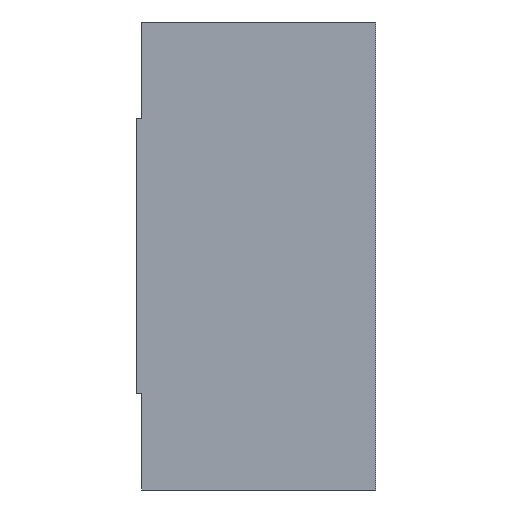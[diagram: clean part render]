
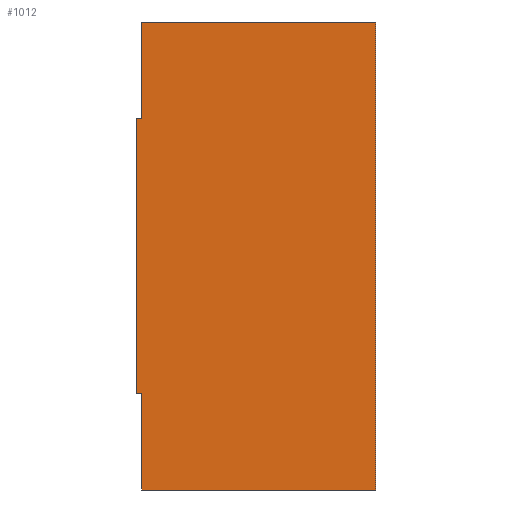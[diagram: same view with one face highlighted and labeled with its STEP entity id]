
A CAD part, left-side view. The second image highlights one B-rep face of the part: STEP entity #1012.
In plain terms, the highlighted planar face has unit normal (-1, 0, 0).
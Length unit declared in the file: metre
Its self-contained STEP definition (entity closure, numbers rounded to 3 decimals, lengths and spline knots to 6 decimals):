
#196=ORIENTED_EDGE('',*,*,#356,.T.);
#197=ORIENTED_EDGE('',*,*,#410,.F.);
#198=ORIENTED_EDGE('',*,*,#404,.T.);
#199=ORIENTED_EDGE('',*,*,#400,.T.);
#200=ORIENTED_EDGE('',*,*,#409,.F.);
#201=ORIENTED_EDGE('',*,*,#411,.T.);
#202=ORIENTED_EDGE('',*,*,#359,.F.);
#203=ORIENTED_EDGE('',*,*,#412,.F.);
#356=EDGE_CURVE('',#475,#477,#584,.T.);
#359=EDGE_CURVE('',#480,#481,#587,.T.);
#400=EDGE_CURVE('',#511,#512,#619,.T.);
#404=EDGE_CURVE('',#515,#511,#623,.T.);
#409=EDGE_CURVE('',#518,#512,#628,.T.);
#410=EDGE_CURVE('',#515,#477,#629,.T.);
#411=EDGE_CURVE('',#518,#481,#630,.T.);
#412=EDGE_CURVE('',#475,#480,#631,.T.);
#475=VERTEX_POINT('',#1507);
#477=VERTEX_POINT('',#1511);
#480=VERTEX_POINT('',#1518);
#481=VERTEX_POINT('',#1520);
#511=VERTEX_POINT('',#1607);
#512=VERTEX_POINT('',#1608);
#515=VERTEX_POINT('',#1616);
#518=VERTEX_POINT('',#1624);
#584=LINE('',#1512,#658);
#587=LINE('',#1519,#661);
#619=LINE('',#1606,#693);
#623=LINE('',#1615,#697);
#628=LINE('',#1625,#702);
#629=LINE('',#1627,#703);
#630=LINE('',#1628,#704);
#631=LINE('',#1629,#705);
#658=VECTOR('',#1200,1.);
#661=VECTOR('',#1205,1.);
#693=VECTOR('',#1287,1.);
#697=VECTOR('',#1293,1.);
#702=VECTOR('',#1300,1.);
#703=VECTOR('',#1303,1.);
#704=VECTOR('',#1304,1.);
#705=VECTOR('',#1305,1.);
#754=EDGE_LOOP('',(#196,#197,#198,#199,#200,#201,#202,#203));
#862=FACE_BOUND('',#754,.T.);
#979=PLANE('',#1105);
#1012=ADVANCED_FACE('',(#862),#979,.F.);
#1105=AXIS2_PLACEMENT_3D('',#1626,#1301,#1302);
#1200=DIRECTION('',(0.,-1.,0.));
#1205=DIRECTION('',(0.,-1.,0.));
#1287=DIRECTION('',(0.,0.,1.));
#1293=DIRECTION('',(0.,-1.,0.));
#1300=DIRECTION('',(0.,-1.,0.));
#1301=DIRECTION('',(1.,0.,0.));
#1302=DIRECTION('',(0.,0.,-1.));
#1303=DIRECTION('',(0.,0.,1.));
#1304=DIRECTION('',(0.,0.,-1.));
#1305=DIRECTION('',(0.,0.,1.));
#1507=CARTESIAN_POINT('',(0.,0.0235,-0.0365));
#1511=CARTESIAN_POINT('',(0.,0.023,-0.0365));
#1512=CARTESIAN_POINT('',(0.,0.0235,-0.0365));
#1518=CARTESIAN_POINT('',(0.,0.0235,-0.0095));
#1519=CARTESIAN_POINT('',(0.,0.0235,-0.0095));
#1520=CARTESIAN_POINT('',(0.,0.023,-0.0095));
#1606=CARTESIAN_POINT('',(0.,0.,0.));
#1607=CARTESIAN_POINT('',(0.,0.,-0.046));
#1608=CARTESIAN_POINT('',(0.,0.,0.));
#1615=CARTESIAN_POINT('',(0.,0.0235,-0.046));
#1616=CARTESIAN_POINT('',(0.,0.023,-0.046));
#1624=CARTESIAN_POINT('',(0.,0.023,0.));
#1625=CARTESIAN_POINT('',(0.,0.0235,0.));
#1626=CARTESIAN_POINT('',(0.,0.0235,0.));
#1627=CARTESIAN_POINT('',(0.,0.023,-0.046));
#1628=CARTESIAN_POINT('',(0.,0.023,0.));
#1629=CARTESIAN_POINT('',(0.,0.0235,0.));
